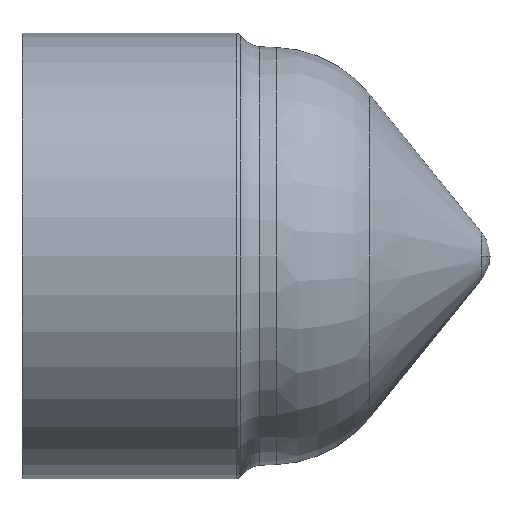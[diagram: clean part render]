
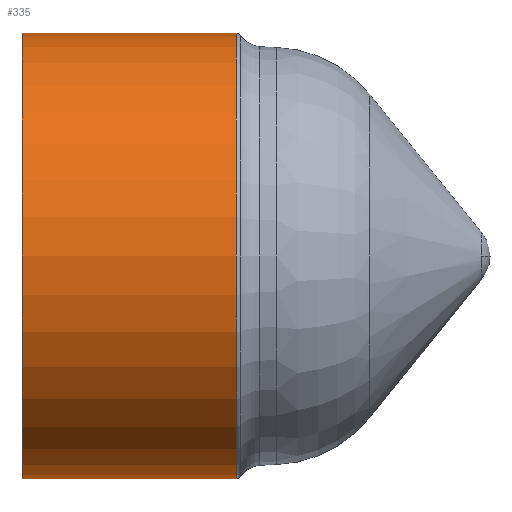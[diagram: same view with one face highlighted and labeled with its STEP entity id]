
A CAD part, left-side view. The second image highlights one B-rep face of the part: STEP entity #335.
In plain terms, the highlighted cylindrical face has radius 11.214 mm (diameter 22.428 mm), a partial arc.
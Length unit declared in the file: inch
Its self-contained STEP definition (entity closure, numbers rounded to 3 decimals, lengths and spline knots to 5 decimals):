
#58 = CARTESIAN_POINT ( 'NONE',  ( 0., 1.80924, 0.4415 ) ) ;
#310 = DIRECTION ( 'NONE',  ( 0., 0., 1. ) ) ;
#335 = ADVANCED_FACE ( 'NONE', ( #3915 ), #2592, .T. ) ;
#459 = ORIENTED_EDGE ( 'NONE', *, *, #8291, .F. ) ;
#735 = CARTESIAN_POINT ( 'NONE',  ( 0., 0.475, 0.4415 ) ) ;
#1027 = VECTOR ( 'NONE', #7813, 39.37008 ) ;
#1233 = VERTEX_POINT ( 'NONE', #7435 ) ;
#1401 = VERTEX_POINT ( 'NONE', #2782 ) ;
#1559 = DIRECTION ( 'NONE',  ( 0., 1., 0. ) ) ;
#1582 = CARTESIAN_POINT ( 'NONE',  ( 0., 0.05022, -0.4415 ) ) ;
#1630 = DIRECTION ( 'NONE',  ( 0., 1., 0. ) ) ;
#1675 = AXIS2_PLACEMENT_3D ( 'NONE', #1815, #2513, #8814 ) ;
#1681 = LINE ( 'NONE', #2883, #1027 ) ;
#1815 = CARTESIAN_POINT ( 'NONE',  ( 0., 0.475, 0. ) ) ;
#2049 = DIRECTION ( 'NONE',  ( 0., 0., -1. ) ) ;
#2513 = DIRECTION ( 'NONE',  ( 0., 1., 0. ) ) ;
#2592 = CYLINDRICAL_SURFACE ( 'NONE', #5778, 0.4415 ) ;
#2763 = ORIENTED_EDGE ( 'NONE', *, *, #7112, .F. ) ;
#2782 = CARTESIAN_POINT ( 'NONE',  ( 0., 0.475, -0.4415 ) ) ;
#2883 = CARTESIAN_POINT ( 'NONE',  ( 0., 1.80924, -0.4415 ) ) ;
#3040 = EDGE_LOOP ( 'NONE', ( #459, #7376, #5275, #2763 ) ) ;
#3230 = VECTOR ( 'NONE', #1559, 39.37008 ) ;
#3311 = DIRECTION ( 'NONE',  ( 0., 1., 0. ) ) ;
#3808 = CARTESIAN_POINT ( 'NONE',  ( 0., 1.80924, 0. ) ) ;
#3915 = FACE_OUTER_BOUND ( 'NONE', #3040, .T. ) ;
#4432 = LINE ( 'NONE', #58, #3230 ) ;
#5055 = CIRCLE ( 'NONE', #6537, 0.4415 ) ;
#5275 = ORIENTED_EDGE ( 'NONE', *, *, #7404, .T. ) ;
#5351 = VERTEX_POINT ( 'NONE', #735 ) ;
#5778 = AXIS2_PLACEMENT_3D ( 'NONE', #3808, #1630, #310 ) ;
#5887 = VERTEX_POINT ( 'NONE', #1582 ) ;
#6143 = CARTESIAN_POINT ( 'NONE',  ( 0., 0.05022, 0. ) ) ;
#6532 = CIRCLE ( 'NONE', #1675, 0.4415 ) ;
#6537 = AXIS2_PLACEMENT_3D ( 'NONE', #6143, #3311, #2049 ) ;
#7112 = EDGE_CURVE ( 'NONE', #1401, #5351, #6532, .T. ) ;
#7376 = ORIENTED_EDGE ( 'NONE', *, *, #8735, .T. ) ;
#7404 = EDGE_CURVE ( 'NONE', #1233, #5351, #4432, .T. ) ;
#7435 = CARTESIAN_POINT ( 'NONE',  ( 0., 0.05022, 0.4415 ) ) ;
#7813 = DIRECTION ( 'NONE',  ( 0., 1., 0. ) ) ;
#8291 = EDGE_CURVE ( 'NONE', #5887, #1401, #1681, .T. ) ;
#8735 = EDGE_CURVE ( 'NONE', #5887, #1233, #5055, .T. ) ;
#8814 = DIRECTION ( 'NONE',  ( 0., 0., 1. ) ) ;
